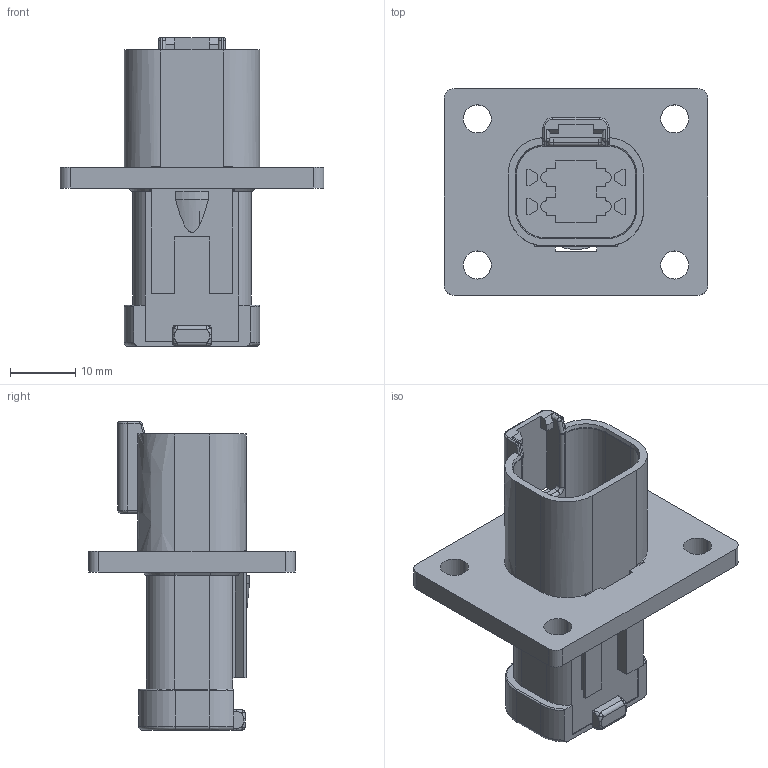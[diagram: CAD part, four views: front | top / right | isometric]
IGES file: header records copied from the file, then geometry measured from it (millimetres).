
Start section:  PTC IGES file: c-dt04-4p-le11-99-3d.igs
Global section: file name: c-dt04-4p-le11-99-3d.igs; native system: Pro/ENGINEER by Parametric Technology Corporation; preprocessor: 2011490; author: workeradm; organization: Unknown; units: millimetre
Bounding box: 40.51 x 31.75 x 47.45 mm (x, y, z)
Surface area: 7859.7 mm2 (no closed solid volume)
Topology: 0 solids, 0 shells, 483 faces, 2520 edges, 2520 vertices
Faces by surface type: bspline 299, revolution 184
